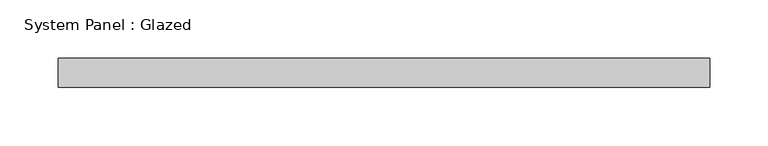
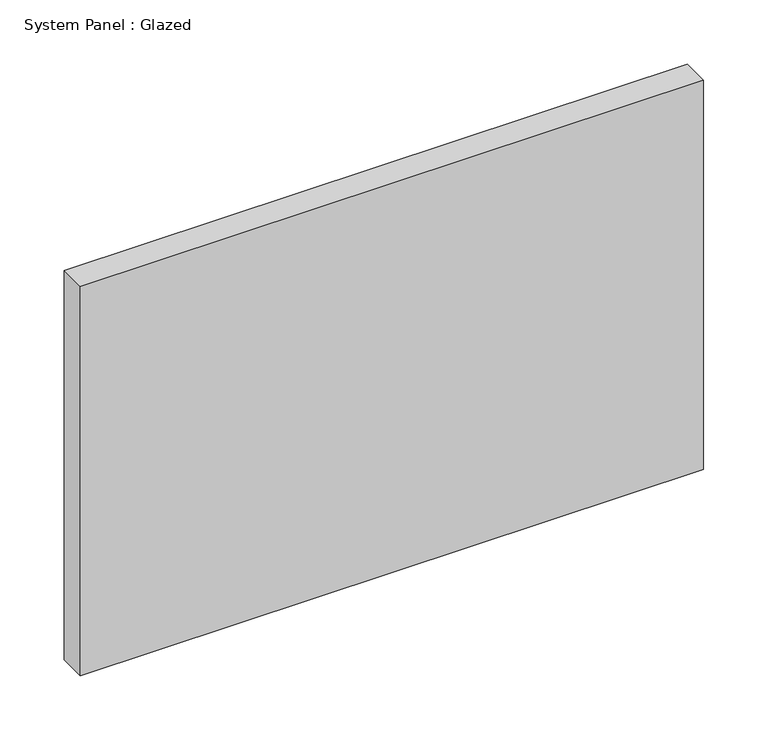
"""IFC4 building model written with IfcOpenShell, lengths in millimetres: plate geometry, System Panel : Glazed."""

from ifc_helpers import new_model, si_unit, origin, origin_with_axes, place, context, project, spatial, polyline, outline, extrude, source, transform, mapped, element, save


def system_panel_glazed_1253e8ac(model_context):
    return source(origin(), model_context, "Body", "SweptSolid", [
        extrude(outline(polyline([(280.0, 24.5), (-280.0, 24.5), (-280.0, 49.5), (280.0, 49.5), (280.0, 24.5)])), origin_with_axes(), (0.0, 0.0, 1.0), 369.9403709),
    ])


if __name__ == "__main__":
    model = new_model("IFC4")
    model_context = context("Model", 3, world=origin())
    ifc_project = project(units=[si_unit("LENGTHUNIT", "METRE", prefix="MILLI")], contexts=[model_context])
    site = spatial("IfcSite", under=ifc_project)
    building = spatial("IfcBuilding", under=site)
    placement = place(None, origin())
    system_panel_glazed_shape = system_panel_glazed_1253e8ac(model_context)
    element("IfcPlate", 1, ObjectType="System Panel : Glazed", at=placement, inside=building, context=model_context, shape_type="MappedRepresentation", body=[
        mapped(system_panel_glazed_shape, transform((0.0, 0.0, 0.0), x_axis=(1.0, 0.0, 0.0), y_axis=(0.0, 1.0, 0.0), z_axis=(0.0, 0.0, 1.0))),
    ])
    save(model, "model.ifc")
